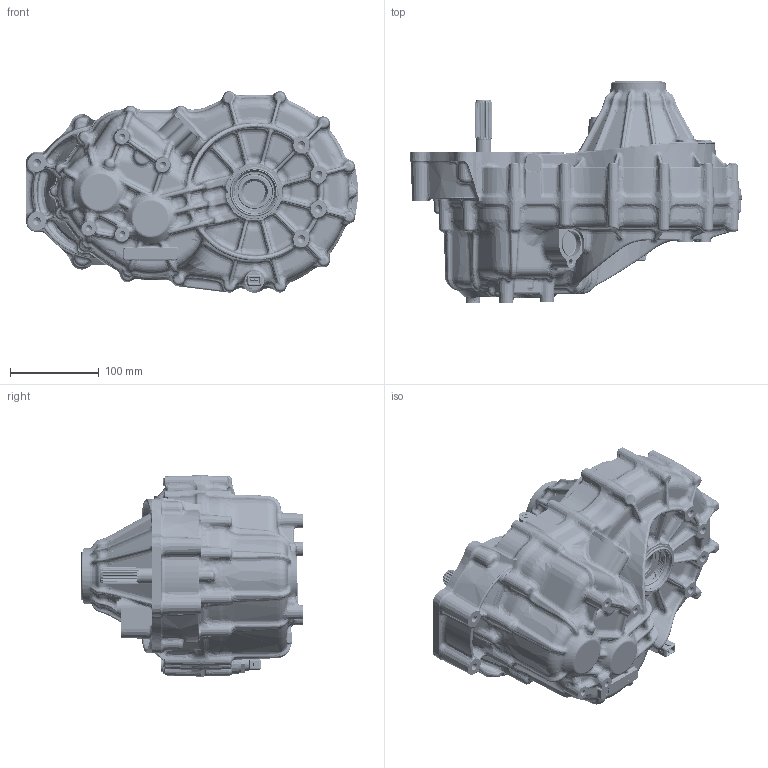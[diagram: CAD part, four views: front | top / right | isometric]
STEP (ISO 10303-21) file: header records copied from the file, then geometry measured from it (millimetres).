
FILE_DESCRIPTION(('CATIA V5 STEP Exchange'),'2;1');
FILE_NAME('R:\158___E_POWERTRAIN\000___PROJECT\CUSTOMER_DOCUMENTATION\HPD_SINGLE_SPEED_TRANSMISSION.stp','2020-12-10T10:21:57+00:00',('none'),('none'),'CATIA Version 5 Release 20 GA (IN-10)','CATIA V5 STEP AP203','none');
FILE_SCHEMA(('CONFIG_CONTROL_DESIGN'));
Length unit declared in the file: millimetre
Products named in the file (1): HPD_SINGLE_SPEED_TRANSMISSION
Bounding box: 374.97 x 249.69 x 227.69 mm (x, y, z)
Volume: 6595438.2 mm3; surface area: 427836 mm2
Topology: 3 solids, 4 shells, 8516 faces, 21163 edges, 12627 vertices
Faces by surface type: bspline 5076, cylinder 914, torus 860, plane 750, cone 660, sphere 131, revolution 90, extrusion 35
Entity records: 537254 total; most frequent: CARTESIAN_POINT 389527, ORIENTED_EDGE 41996, EDGE_CURVE 20998, B_SPLINE_CURVE_WITH_KNOTS 14232, VERTEX_POINT 12627, DIRECTION 10733, EDGE_LOOP 8659, ADVANCED_FACE 8516
